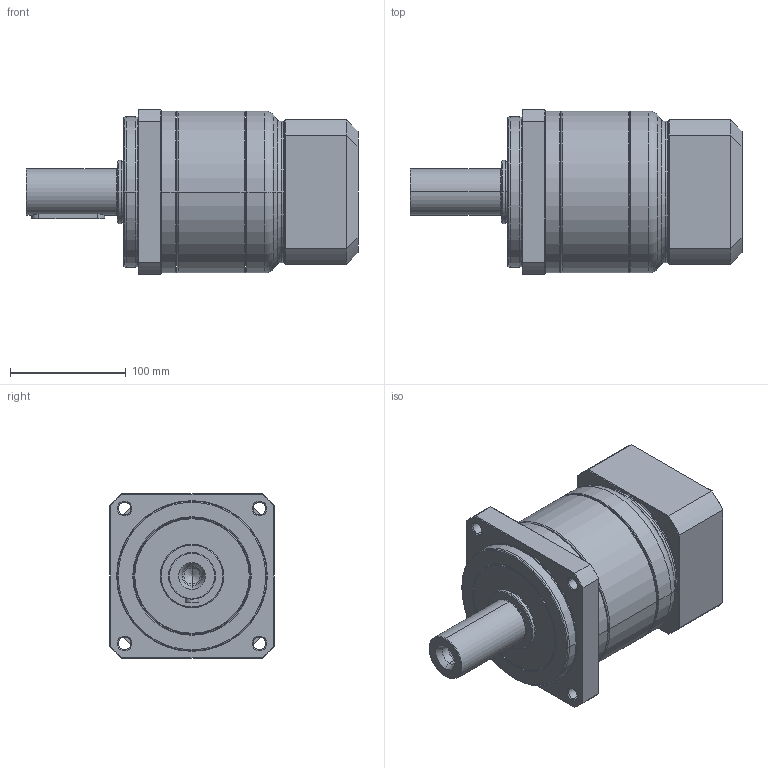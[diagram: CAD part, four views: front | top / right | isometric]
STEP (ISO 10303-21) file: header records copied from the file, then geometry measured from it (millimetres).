
FILE_DESCRIPTION((''),'2;1');
FILE_NAME('PA2-142_1ST_32-P0411700101_ASM','2016-05-06T',('d01943'),(''),'PRO/ENGINEER BY PARAMETRIC TECHNOLOGY CORPORATION, 2008410','PRO/ENGINEER BY PARAMETRIC TECHNOLOGY CORPORATION, 2008410','');
FILE_SCHEMA(('CONFIG_CONTROL_DESIGN'));
Length unit declared in the file: millimetre
Products named in the file (9): P1327510001; P0250500001; P1324500301; P0350500601; P0941503001; P0503700010; P0411700101; P1702600001; PA2-142_1ST_32-P0411700101_ASM
Assembly tree (8 placements, depth 2):
  PA2-142_1ST_32-P0411700101_ASM
    P1327510001
    P0250500001
    P1324500301
    P0350500601
    P0941503001
    P0503700010
    P0411700101
    P1702600001
Bounding box: 287 x 142 x 142 mm (x, y, z)
Volume: 2455999.4 mm3; surface area: 343460.5 mm2
Topology: 8 solids, 8 shells, 455 faces, 999 edges, 578 vertices
Faces by surface type: cone 142, cylinder 127, plane 86, torus 84, bspline 16
Entity records: 17250 total; most frequent: CARTESIAN_POINT 6991, DIRECTION 2314, ORIENTED_EDGE 1958, AXIS2_PLACEMENT_3D 986, EDGE_CURVE 979, VERTEX_POINT 578, CIRCLE 530, EDGE_LOOP 517
